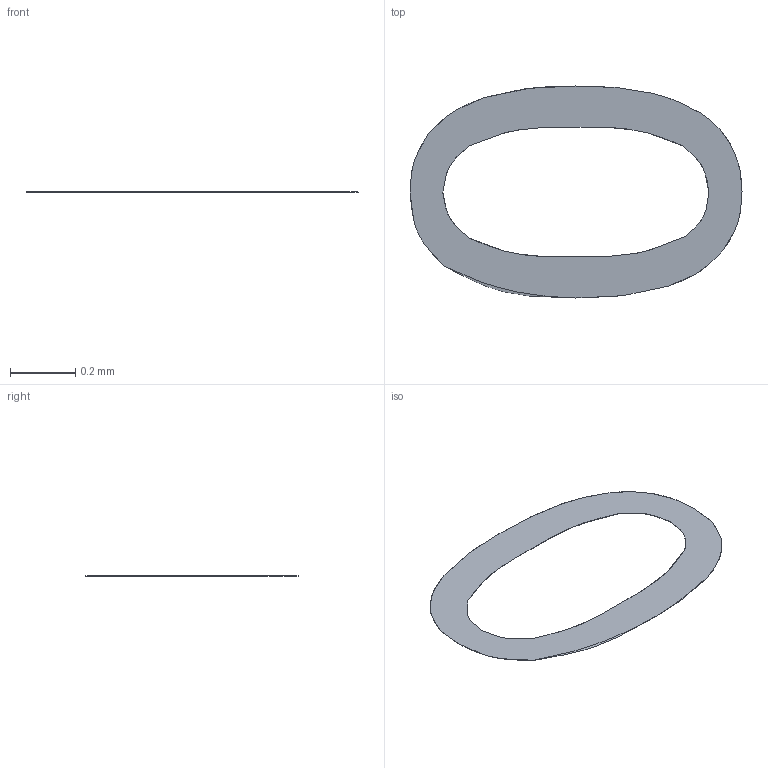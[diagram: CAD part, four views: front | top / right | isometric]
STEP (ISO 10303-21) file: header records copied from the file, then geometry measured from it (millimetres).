
FILE_DESCRIPTION(/* description */ ('STEP AP242 Edition 2','CAx-IF Rec.Pracs.---Representation and Presentation of Product Manufacturing Information (PMI)---4.0---2014-10-13','CAx-IF Rec.Pracs.---3D Tessellated Geometry---0.4---2014-09-14','2;1','CAx-IF Rec.Pracs.---User Defined Attributes---1.5---2016-08-15'),/* implementation_level */ '2;1');
FILE_NAME(/* name */ 'Drone Layout - Surface 366',/* time_stamp */ '2026-10-04T22:22:58Z',/* author */ (''),/* organization */ (''),/* preprocessor_version */ 'ST-DEVELOPER v20',/* originating_system */ 'ONSHAPE BY PTC INC, 1.221',/* authorisation */ ' ');
FILE_SCHEMA (('AP242_MANAGED_MODEL_BASED_3D_ENGINEERING_MIM_LF { 1 0 10303 442 3 1 4 }'));
Length unit declared in the file: metre
Products named in the file (1): VL53L0X:1__Body40
Bounding box: 1.02 x 0.65 x 0 mm (x, y, z)
Volume: 0 mm3; surface area: 0.6 mm2
Topology: 1 solids, 1 shells, 22 faces, 60 edges, 40 vertices
Faces by surface type: bspline 20, plane 2
Entity records: 883 total; most frequent: CARTESIAN_POINT 445, ORIENTED_EDGE 120, EDGE_CURVE 60, VERTEX_POINT 40, B_SPLINE_CURVE_WITH_KNOTS 40, DIRECTION 26, EDGE_LOOP 24, FACE_BOUND 24
